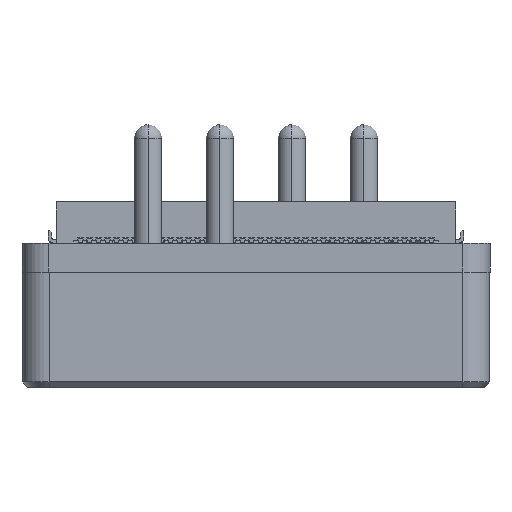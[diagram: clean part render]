
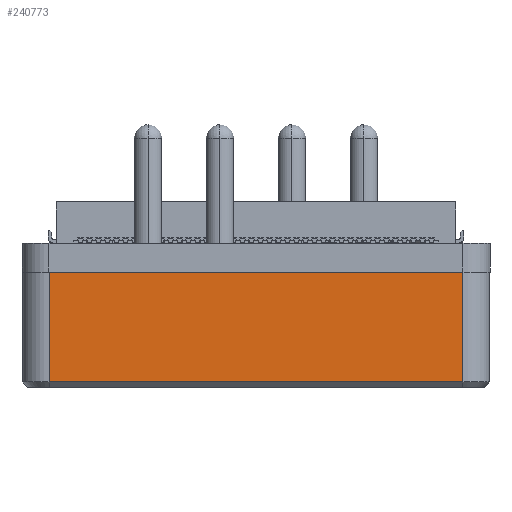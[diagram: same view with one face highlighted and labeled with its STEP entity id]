
A CAD part, left-side view. The second image highlights one B-rep face of the part: STEP entity #240773.
In plain terms, the highlighted planar face has unit normal (-1, 0, 0).
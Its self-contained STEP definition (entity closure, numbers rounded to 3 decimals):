
#240773 = ADVANCED_FACE('',(#240774),#240808,.F.);
#240774 = FACE_BOUND('',#240775,.T.);
#240775 = EDGE_LOOP('',(#240776,#240786,#240794,#240802));
#240776 = ORIENTED_EDGE('',*,*,#240777,.T.);
#240777 = EDGE_CURVE('',#240778,#240780,#240782,.T.);
#240778 = VERTEX_POINT('',#240779);
#240779 = CARTESIAN_POINT('',(0.,6.4,-24.5));
#240780 = VERTEX_POINT('',#240781);
#240781 = CARTESIAN_POINT('',(0.,0.3,-24.5));
#240782 = LINE('',#240783,#240784);
#240783 = CARTESIAN_POINT('',(0.,6.4,-24.5));
#240784 = VECTOR('',#240785,1.);
#240785 = DIRECTION('',(0.,-1.,0.));
#240786 = ORIENTED_EDGE('',*,*,#240787,.T.);
#240787 = EDGE_CURVE('',#240780,#240788,#240790,.T.);
#240788 = VERTEX_POINT('',#240789);
#240789 = CARTESIAN_POINT('',(0.,0.3,-1.5));
#240790 = LINE('',#240791,#240792);
#240791 = CARTESIAN_POINT('',(0.,0.3,-1.5));
#240792 = VECTOR('',#240793,1.);
#240793 = DIRECTION('',(0.,0.,1.));
#240794 = ORIENTED_EDGE('',*,*,#240795,.T.);
#240795 = EDGE_CURVE('',#240788,#240796,#240798,.T.);
#240796 = VERTEX_POINT('',#240797);
#240797 = CARTESIAN_POINT('',(0.,6.4,-1.5));
#240798 = LINE('',#240799,#240800);
#240799 = CARTESIAN_POINT('',(0.,6.4,-1.5));
#240800 = VECTOR('',#240801,1.);
#240801 = DIRECTION('',(0.,1.,0.));
#240802 = ORIENTED_EDGE('',*,*,#240803,.F.);
#240803 = EDGE_CURVE('',#240778,#240796,#240804,.T.);
#240804 = LINE('',#240805,#240806);
#240805 = CARTESIAN_POINT('',(0.,6.4,0.));
#240806 = VECTOR('',#240807,1.);
#240807 = DIRECTION('',(0.,0.,1.));
#240808 = PLANE('',#240809);
#240809 = AXIS2_PLACEMENT_3D('',#240810,#240811,#240812);
#240810 = CARTESIAN_POINT('',(0.,6.4,0.));
#240811 = DIRECTION('',(1.,0.,0.));
#240812 = DIRECTION('',(0.,0.,-1.));
